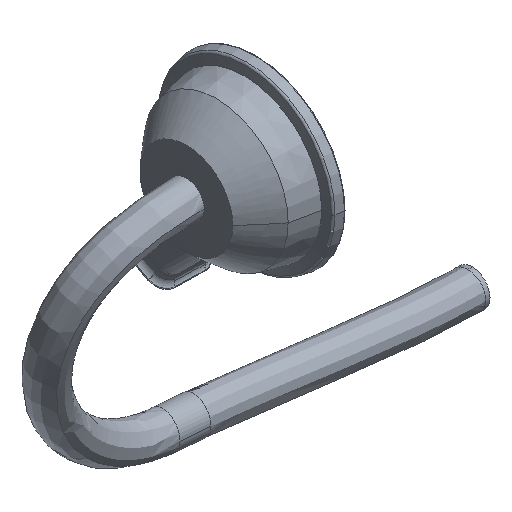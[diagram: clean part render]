
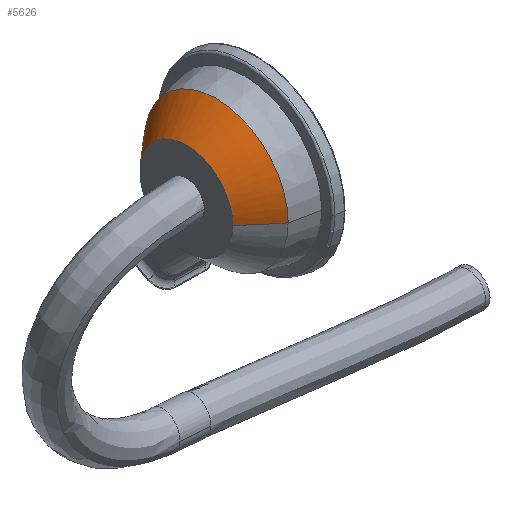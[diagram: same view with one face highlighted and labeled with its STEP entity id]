
A CAD part, isometric view. The second image highlights one B-rep face of the part: STEP entity #5626.
In plain terms, the highlighted toroidal (fillet/blend) face has major radius 495.487 mm and minor radius 759.141 mm.
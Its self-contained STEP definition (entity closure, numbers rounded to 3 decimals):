
#163 = DIRECTION ( 'NONE',  ( 0., 1., 0. ) ) ;
#294 = AXIS2_PLACEMENT_3D ( 'NONE', #4659, #6527, #3876 ) ;
#373 = VERTEX_POINT ( 'NONE', #6720 ) ;
#443 = EDGE_CURVE ( 'NONE', #1542, #1299, #2915, .T. ) ;
#696 = ORIENTED_EDGE ( 'NONE', *, *, #1019, .F. ) ;
#962 = CIRCLE ( 'NONE', #6080, 100.659 ) ;
#1019 = EDGE_CURVE ( 'NONE', #373, #1542, #962, .T. ) ;
#1037 = CARTESIAN_POINT ( 'NONE',  ( 3.5, 0., 2150. ) ) ;
#1299 = VERTEX_POINT ( 'NONE', #6538 ) ;
#1542 = VERTEX_POINT ( 'NONE', #4690 ) ;
#1742 = TOROIDAL_SURFACE ( 'NONE', #6280, -495.487, 759.141 ) ;
#1804 = DIRECTION ( 'NONE',  ( -1., 0., 0. ) ) ;
#2402 = CARTESIAN_POINT ( 'NONE',  ( 473.505, -495.487, 2150. ) ) ;
#2533 = EDGE_CURVE ( 'NONE', #373, #5557, #6086, .T. ) ;
#2915 = CIRCLE ( 'NONE', #5180, 759.141 ) ;
#3029 = CIRCLE ( 'NONE', #294, 65. ) ;
#3131 = CARTESIAN_POINT ( 'NONE',  ( 473.505, 0., 2150. ) ) ;
#3217 = DIRECTION ( 'NONE',  ( 0., 1., 0. ) ) ;
#3283 = EDGE_CURVE ( 'NONE', #1299, #5557, #3029, .T. ) ;
#3434 = DIRECTION ( 'NONE',  ( 0., -1., 0. ) ) ;
#3876 = DIRECTION ( 'NONE',  ( 0., 0., -1. ) ) ;
#3889 = DIRECTION ( 'NONE',  ( 0., -1., 0. ) ) ;
#3999 = CARTESIAN_POINT ( 'NONE',  ( 473.505, 495.487, 2150. ) ) ;
#4056 = ORIENTED_EDGE ( 'NONE', *, *, #443, .F. ) ;
#4186 = ORIENTED_EDGE ( 'NONE', *, *, #2533, .T. ) ;
#4659 = CARTESIAN_POINT ( 'NONE',  ( -38.5, 0., 2150. ) ) ;
#4690 = CARTESIAN_POINT ( 'NONE',  ( 3.5, -100.659, 2150. ) ) ;
#5180 = AXIS2_PLACEMENT_3D ( 'NONE', #3999, #6153, #163 ) ;
#5557 = VERTEX_POINT ( 'NONE', #5974 ) ;
#5626 = ADVANCED_FACE ( 'NONE', ( #5826 ), #1742, .T. ) ;
#5700 = DIRECTION ( 'NONE',  ( 0., 0., 1. ) ) ;
#5826 = FACE_OUTER_BOUND ( 'NONE', #6146, .T. ) ;
#5946 = DIRECTION ( 'NONE',  ( 1., 0., 0. ) ) ;
#5974 = CARTESIAN_POINT ( 'NONE',  ( -38.5, 65., 2150. ) ) ;
#6080 = AXIS2_PLACEMENT_3D ( 'NONE', #1037, #5946, #3217 ) ;
#6086 = CIRCLE ( 'NONE', #6421, 759.141 ) ;
#6146 = EDGE_LOOP ( 'NONE', ( #696, #4186, #6768, #4056 ) ) ;
#6153 = DIRECTION ( 'NONE',  ( 0., 0., -1. ) ) ;
#6280 = AXIS2_PLACEMENT_3D ( 'NONE', #3131, #1804, #3889 ) ;
#6421 = AXIS2_PLACEMENT_3D ( 'NONE', #2402, #5700, #3434 ) ;
#6527 = DIRECTION ( 'NONE',  ( -1., 0., 0. ) ) ;
#6538 = CARTESIAN_POINT ( 'NONE',  ( -38.5, -65., 2150. ) ) ;
#6720 = CARTESIAN_POINT ( 'NONE',  ( 3.5, 100.659, 2150. ) ) ;
#6768 = ORIENTED_EDGE ( 'NONE', *, *, #3283, .F. ) ;
